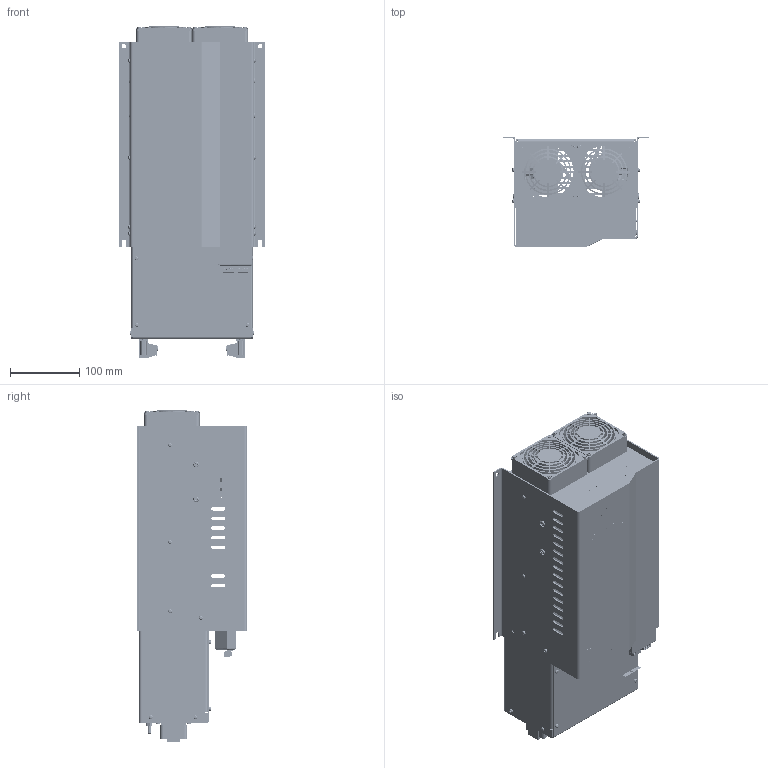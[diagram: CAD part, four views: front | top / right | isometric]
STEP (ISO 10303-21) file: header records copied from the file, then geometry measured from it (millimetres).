
FILE_DESCRIPTION(/* description */ ('.'),/* implementation_level */ '2;1');
FILE_NAME(/* name */ 'EPC 8k 8380i simple_CAN_v2_aver aver',/* time_stamp */ '2022-10-28T19:12:45+02:00',/* author */ ('Luis JimÃ©nez'),/* organization */ ('epic power'),/* preprocessor_version */ 'ST-DEVELOPER v16.7',/* originating_system */ 'DEX',/* authorisation */ $);
FILE_SCHEMA (('AUTOMOTIVE_DESIGN {1 0 10303 214 3 1 1}'));
Products named in the file (196): EPC 8k 8380i simple_CAN_v2; Tapa; FanGuard 80 Qualtek 09081-G; Ventilador 80x80 12V; Base_6kW; Torx_M4_10_iso7045; DIN7985_M3X8mm_TORX; 691361300003_; DIN125 M5; Dischargue time; Bottom_8k_8380; 691361300004_; 691361300008; DIN912 M2.5X6; Light_pipe_x8_5151063f; 1703454_01; Pegatina_conectores_EPC_2019; STEP-691340500006-rev1; STEP-691364300008-rev1; 1913578_02; Pegatina High Side EPC 5k5; Pegatina tierra_2; Assembly_Can_Enclosure_+_PCB; 20170701_07.01.08.000_oa_0; Board07.01.08.000_0; TP2807.01.08.000_0_oa_1; 989849312_0_oa_2; Cylinder_1; TP307.01.08.000_0_oa_3; 989849312_0_oa_4; TP2707.01.08.000_0_oa_5; 989849312_0_oa_6; TP2607.01.08.000_0_oa_7; 989849824_0_oa_8; Cylinder_2; TP2507.01.08.000_0_oa_9; 989849824_0_oa_10; TP2407.01.08.000_0_oa_11; 989849824_0_oa_12; TP2307.01.08.000_0_oa_13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
Assembly tree (339 placements, depth 7):
  EPC 8k 8380i simple_CAN_v2
    Tapa
    FanGuard 80 Qualtek 09081-G  x2
    Ventilador 80x80 12V  x2
    Base_6kW
    Torx_M4_10_iso7045  x4
    DIN7985_M3X8mm_TORX  x21
    691361300003_
    DIN125 M5  x2
    Dischargue time
    Bottom_8k_8380
    691361300004_
    691361300008
    DIN912 M2.5X6  x2
    Light_pipe_x8_5151063f
    1703454_01  x2
    Pegatina_conectores_EPC_2019
    STEP-691340500006-rev1
    STEP-691364300008-rev1
    1913578_02  x2
    Pegatina High Side EPC 5k5
    Pegatina tierra_2  x2
    Assembly_Can_Enclosure_+_PCB
      20170701_07.01.08.000_oa_0
        Board07.01.08.000_0
        TP2807.01.08.000_0_oa_1
          989849312_0_oa_2
            Cylinder_1
        TP307.01.08.000_0_oa_3
          989849312_0_oa_4
            Cylinder_1
        TP2707.01.08.000_0_oa_5
          989849312_0_oa_6
            Cylinder_1
        TP2607.01.08.000_0_oa_7
          989849824_0_oa_8
            Cylinder_2
        TP2507.01.08.000_0_oa_9
          989849824_0_oa_10
            Cylinder_2
        TP2407.01.08.000_0_oa_11
          989849824_0_oa_12
            Cylinder_2
        TP2307.01.08.000_0_oa_13
          989849824_0_oa_14
            Cylinder_2
        TP2207.01.08.000_0_oa_15
          989849824_0_oa_16
            Cylinder_2
        TP2107.01.08.000_0_oa_17
          989849824_0_oa_18
            Cylinder_2
        TP2007.01.08.000_0_oa_19
          989849824_0_oa_20
            Cylinder_2
        TP1907.01.08.000_0_oa_21
          989849824_0_oa_22
            Cylinder_2
        TP1807.01.08.000_0_oa_23
          989849824_0_oa_24
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Bounding box: 211 x 159.11 x 479.3 mm (x, y, z)
Volume: 1023176.7 mm3; surface area: 1011046 mm2
Topology: 348 solids, 431 shells, 28694 faces, 73714 edges, 46159 vertices
Faces by surface type: plane 14968, bspline 7066, cylinder 5497, cone 563, torus 316, sphere 284
Full cylindrical faces by diameter (mm): 0.1 x92, 0.2 x28, 0.457 x4, 0.75 x1, 1 x15, 1.2 x24, 1.27 x4, 1.3 x8, 1.35 x31, 1.5 x6, 1.9 x93, 2 x31, 2.1 x8, 2.4 x12, 2.459 x45, 2.489 x8, 2.5 x16, 2.6 x2, 2.75 x6, 2.8 x2, 2.9 x68, 2.95 x6, 3 x32, 3.3 x2, 3.35 x8, 3.5 x36, 3.75 x6, 3.8 x14, 4 x42, 4.018 x2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
Entity records: 541276 total; most frequent: CARTESIAN_POINT 110428, ORIENTED_EDGE 76601, DIRECTION 71251, EDGE_CURVE 38594, LINE 32219, VECTOR 32219, VERTEX_POINT 25630, AXIS2_PLACEMENT_3D 19516
